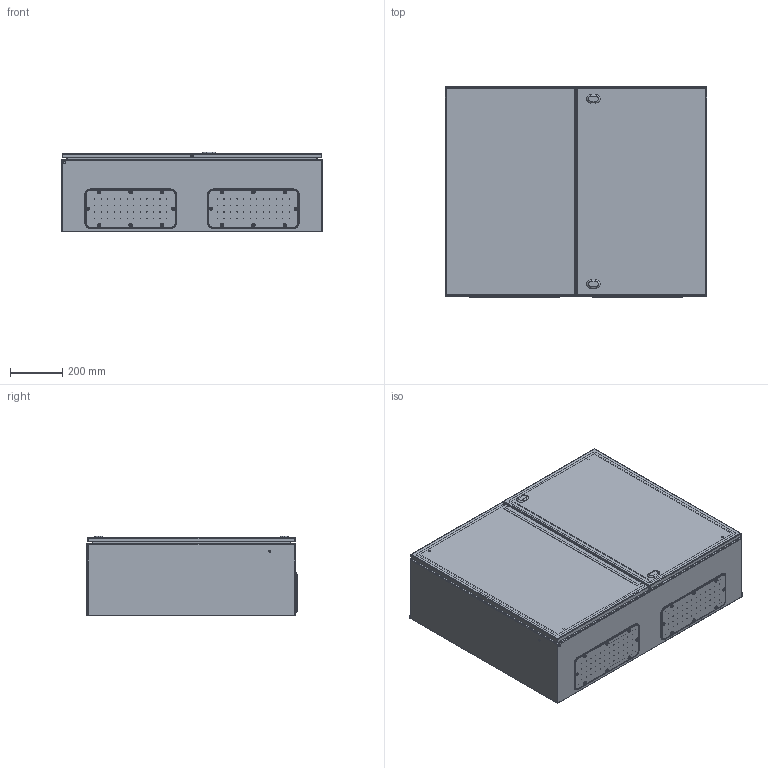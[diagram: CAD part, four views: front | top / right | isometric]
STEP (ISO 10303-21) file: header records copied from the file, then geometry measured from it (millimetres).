
FILE_DESCRIPTION(/* description */ ('STEP AP214'),/* implementation_level */ '2;1');
FILE_NAME(/* name */ 'EC100830-LOD400',/* time_stamp */ '2025-08-01T14:35:39+02:00',/* author */ ('License CC BY-ND 4.0'),/* organization */ ('CADENAS'),/* preprocessor_version */ 'ST-DEVELOPER v19.3',/* originating_system */ 'PARTsolutions',/* authorisation */ ' ');
FILE_SCHEMA (('AUTOMOTIVE_DESIGN {1 0 10303 214 3 1 1}'));
Length unit declared in the file: millimetre
Products named in the file (6): EC100830-LOD400; EC100830-LOD400_cabinet; EC100830-LOD400_door_l; EC100830-LOD400_door_r; EC100830-LOD400_bottomplate; EC100830-LOD400_plate
Assembly tree (6 placements, depth 2):
  EC100830-LOD400
    EC100830-LOD400_cabinet
    EC100830-LOD400_door_l
    EC100830-LOD400_door_r
    EC100830-LOD400_bottomplate  x2
    EC100830-LOD400_plate
Bounding box: 1000 x 804 x 305 mm (x, y, z)
Volume: 6640103.8 mm3; surface area: 7401230.6 mm2
Topology: 6 solids, 6 shells, 902 faces, 2212 edges, 1454 vertices
Faces by surface type: plane 367, cylinder 367, torus 86, cone 82
Full cylindrical faces by diameter (mm): 1 x96, 4.5 x100, 5.5 x12, 6 x6, 7 x4, 8 x14, 10 x10, 14 x4
Entity records: 20259 total; most frequent: DIRECTION 3636, CARTESIAN_POINT 3283, ORIENTED_EDGE 2932, EDGE_CURVE 1466, AXIS2_PLACEMENT_3D 1457, EDGE_LOOP 1312, FACE_BOUND 1312, VERTEX_POINT 1104
